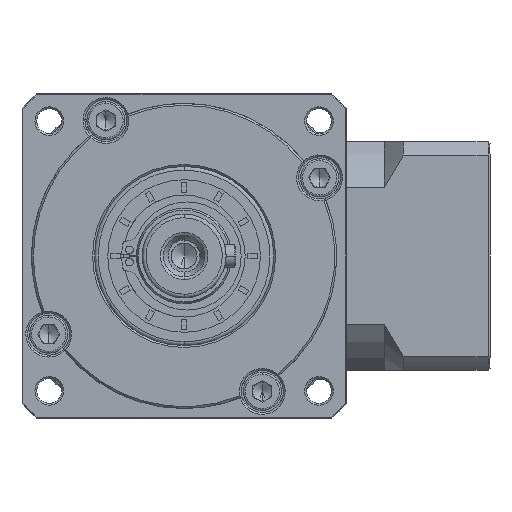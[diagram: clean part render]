
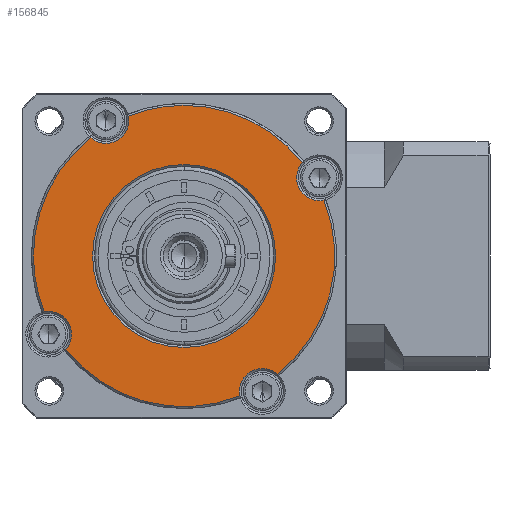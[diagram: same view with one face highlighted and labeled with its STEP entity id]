
A CAD part, left-side view. The second image highlights one B-rep face of the part: STEP entity #156845.
In plain terms, the highlighted planar face has unit normal (-1, 0, 0).
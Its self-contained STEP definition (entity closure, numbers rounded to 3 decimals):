
#1770 = DIRECTION ( 'NONE',  ( 0., 1., 0. ) ) ;
#2203 = DIRECTION ( 'NONE',  ( 0., 0., -1. ) ) ;
#3359 = DIRECTION ( 'NONE',  ( 0., 0., -1. ) ) ;
#4302 = AXIS2_PLACEMENT_3D ( 'NONE', #141970, #50940, #157286 ) ;
#6285 = FACE_OUTER_BOUND ( 'NONE', #175427, .T. ) ;
#7873 = CARTESIAN_POINT ( 'NONE',  ( -231.196, 49.8, 7.865 ) ) ;
#9203 = DIRECTION ( 'NONE',  ( 0., 0., -1. ) ) ;
#11209 = DIRECTION ( 'NONE',  ( 1., 0., 0. ) ) ;
#11604 = CIRCLE ( 'NONE', #28624, 6. ) ;
#15313 = CARTESIAN_POINT ( 'NONE',  ( -231.196, 49.8, 7.865 ) ) ;
#17304 = EDGE_LOOP ( 'NONE', ( #164622, #26739 ) ) ;
#18816 = EDGE_CURVE ( 'NONE', #183508, #106160, #159239, .T. ) ;
#19229 = EDGE_CURVE ( 'NONE', #72740, #43373, #11604, .T. ) ;
#20675 = AXIS2_PLACEMENT_3D ( 'NONE', #147501, #56461, #162882 ) ;
#21639 = DIRECTION ( 'NONE',  ( 1., 0., 0. ) ) ;
#22546 = PLANE ( 'NONE',  #66444 ) ;
#22672 = ORIENTED_EDGE ( 'NONE', *, *, #19229, .T. ) ;
#22696 = CARTESIAN_POINT ( 'NONE',  ( -231.196, 64.419, 44.56 ) ) ;
#23205 = DIRECTION ( 'NONE',  ( 0., 0., -1. ) ) ;
#23673 = EDGE_CURVE ( 'NONE', #67096, #53448, #136253, .T. ) ;
#24796 = EDGE_CURVE ( 'NONE', #58851, #45142, #90422, .T. ) ;
#26739 = ORIENTED_EDGE ( 'NONE', *, *, #24796, .T. ) ;
#28624 = AXIS2_PLACEMENT_3D ( 'NONE', #64343, #170710, #79622 ) ;
#29172 = CARTESIAN_POINT ( 'NONE',  ( -231.196, 80.808, -16.605 ) ) ;
#30594 = DIRECTION ( 'NONE',  ( 0., 0., 1. ) ) ;
#38951 = ORIENTED_EDGE ( 'NONE', *, *, #23673, .T. ) ;
#40072 = AXIS2_PLACEMENT_3D ( 'NONE', #47135, #153450, #62425 ) ;
#41842 = ORIENTED_EDGE ( 'NONE', *, *, #65955, .F. ) ;
#42397 = AXIS2_PLACEMENT_3D ( 'NONE', #184612, #93450, #2203 ) ;
#43373 = VERTEX_POINT ( 'NONE', #46114 ) ;
#43916 = CARTESIAN_POINT ( 'NONE',  ( -231.196, 49.8, 7.865 ) ) ;
#44038 = AXIS2_PLACEMENT_3D ( 'NONE', #112782, #21639, #128060 ) ;
#45142 = VERTEX_POINT ( 'NONE', #53636 ) ;
#46114 = CARTESIAN_POINT ( 'NONE',  ( -231.196, 14.293, 22.365 ) ) ;
#47135 = CARTESIAN_POINT ( 'NONE',  ( -231.196, 49.8, 7.865 ) ) ;
#48988 = CARTESIAN_POINT ( 'NONE',  ( -231.196, 13.105, 22.484 ) ) ;
#50940 = DIRECTION ( 'NONE',  ( 1., 0., 0. ) ) ;
#51746 = AXIS2_PLACEMENT_3D ( 'NONE', #78519, #184909, #93771 ) ;
#53176 = AXIS2_PLACEMENT_3D ( 'NONE', #102436, #11209, #117660 ) ;
#53448 = VERTEX_POINT ( 'NONE', #123670 ) ;
#53636 = CARTESIAN_POINT ( 'NONE',  ( -231.196, 25.8, 7.865 ) ) ;
#54966 = AXIS2_PLACEMENT_3D ( 'NONE', #184173, #93027, #1770 ) ;
#56461 = DIRECTION ( 'NONE',  ( 1., 0., 0. ) ) ;
#58851 = VERTEX_POINT ( 'NONE', #166710 ) ;
#59196 = DIRECTION ( 'NONE',  ( 0., -1., 0. ) ) ;
#60525 = CIRCLE ( 'NONE', #44038, 39.5 ) ;
#60885 = CARTESIAN_POINT ( 'NONE',  ( -231.196, 49.8, 47.365 ) ) ;
#61139 = ORIENTED_EDGE ( 'NONE', *, *, #101550, .F. ) ;
#62425 = DIRECTION ( 'NONE',  ( 0., -1., 0. ) ) ;
#63969 = VERTEX_POINT ( 'NONE', #60885 ) ;
#64343 = CARTESIAN_POINT ( 'NONE',  ( -231.196, 14.293, 28.365 ) ) ;
#65955 = EDGE_CURVE ( 'NONE', #172747, #106160, #192924, .T. ) ;
#66444 = AXIS2_PLACEMENT_3D ( 'NONE', #7873, #114304, #23205 ) ;
#67096 = VERTEX_POINT ( 'NONE', #178022 ) ;
#70078 = EDGE_CURVE ( 'NONE', #126901, #63969, #116175, .T. ) ;
#72740 = VERTEX_POINT ( 'NONE', #48988 ) ;
#76456 = EDGE_CURVE ( 'NONE', #43373, #135970, #109061, .T. ) ;
#76911 = CARTESIAN_POINT ( 'NONE',  ( -231.196, 18.792, 32.334 ) ) ;
#78379 = DIRECTION ( 'NONE',  ( 1., 0., 0. ) ) ;
#78519 = CARTESIAN_POINT ( 'NONE',  ( -231.196, 49.8, 7.865 ) ) ;
#79622 = DIRECTION ( 'NONE',  ( 0., 0., -1. ) ) ;
#82573 = FACE_BOUND ( 'NONE', #17304, .T. ) ;
#86237 = VERTEX_POINT ( 'NONE', #29172 ) ;
#86319 = ORIENTED_EDGE ( 'NONE', *, *, #140437, .F. ) ;
#87296 = AXIS2_PLACEMENT_3D ( 'NONE', #191405, #100402, #9203 ) ;
#89117 = CIRCLE ( 'NONE', #96441, 24. ) ;
#89378 = CARTESIAN_POINT ( 'NONE',  ( -231.196, 70.3, 37.372 ) ) ;
#90422 = CIRCLE ( 'NONE', #40072, 24. ) ;
#93027 = DIRECTION ( 'NONE',  ( 1., 0., 0. ) ) ;
#93450 = DIRECTION ( 'NONE',  ( 1., 0., 0. ) ) ;
#93771 = DIRECTION ( 'NONE',  ( 0., 0., 1. ) ) ;
#94624 = DIRECTION ( 'NONE',  ( 1., 0., 0. ) ) ;
#96441 = AXIS2_PLACEMENT_3D ( 'NONE', #43916, #150275, #59196 ) ;
#96714 = ORIENTED_EDGE ( 'NONE', *, *, #97427, .F. ) ;
#97427 = EDGE_CURVE ( 'NONE', #67096, #86237, #123752, .T. ) ;
#99400 = ORIENTED_EDGE ( 'NONE', *, *, #76456, .T. ) ;
#100402 = DIRECTION ( 'NONE',  ( 1., 0., 0. ) ) ;
#100685 = EDGE_CURVE ( 'NONE', #178632, #86237, #153961, .T. ) ;
#101222 = ORIENTED_EDGE ( 'NONE', *, *, #113759, .F. ) ;
#101550 = EDGE_CURVE ( 'NONE', #72740, #53448, #60525, .T. ) ;
#102436 = CARTESIAN_POINT ( 'NONE',  ( -231.196, 49.8, 7.865 ) ) ;
#106160 = VERTEX_POINT ( 'NONE', #168564 ) ;
#107692 = ORIENTED_EDGE ( 'NONE', *, *, #70078, .F. ) ;
#109061 = CIRCLE ( 'NONE', #4302, 6. ) ;
#109083 = EDGE_CURVE ( 'NONE', #126901, #183508, #180133, .T. ) ;
#112782 = CARTESIAN_POINT ( 'NONE',  ( -231.196, 49.8, 7.865 ) ) ;
#113759 = EDGE_CURVE ( 'NONE', #178632, #172747, #192979, .T. ) ;
#114304 = DIRECTION ( 'NONE',  ( -1., 0., 0. ) ) ;
#116175 = CIRCLE ( 'NONE', #53176, 39.5 ) ;
#117660 = DIRECTION ( 'NONE',  ( 0., 0., 1. ) ) ;
#121754 = DIRECTION ( 'NONE',  ( 1., 0., 0. ) ) ;
#123648 = EDGE_CURVE ( 'NONE', #45142, #58851, #89117, .T. ) ;
#123670 = CARTESIAN_POINT ( 'NONE',  ( -231.196, 25.33, -23.143 ) ) ;
#123752 = CIRCLE ( 'NONE', #192255, 39.5 ) ;
#124181 = CARTESIAN_POINT ( 'NONE',  ( -231.196, 89.3, 7.865 ) ) ;
#126901 = VERTEX_POINT ( 'NONE', #22696 ) ;
#128060 = DIRECTION ( 'NONE',  ( 0., 0., 1. ) ) ;
#135970 = VERTEX_POINT ( 'NONE', #76911 ) ;
#136253 = CIRCLE ( 'NONE', #42397, 6. ) ;
#136260 = ORIENTED_EDGE ( 'NONE', *, *, #18816, .T. ) ;
#140437 = EDGE_CURVE ( 'NONE', #63969, #135970, #179207, .T. ) ;
#141970 = CARTESIAN_POINT ( 'NONE',  ( -231.196, 14.293, 28.365 ) ) ;
#147501 = CARTESIAN_POINT ( 'NONE',  ( -231.196, 49.8, 7.865 ) ) ;
#148284 = AXIS2_PLACEMENT_3D ( 'NONE', #185741, #94624, #3359 ) ;
#150275 = DIRECTION ( 'NONE',  ( 1., 0., 0. ) ) ;
#152972 = ORIENTED_EDGE ( 'NONE', *, *, #100685, .T. ) ;
#153450 = DIRECTION ( 'NONE',  ( 1., 0., 0. ) ) ;
#153961 = CIRCLE ( 'NONE', #148284, 6. ) ;
#156845 = ADVANCED_FACE ( 'NONE', ( #6285, #82573 ), #22546, .T. ) ;
#157269 = CARTESIAN_POINT ( 'NONE',  ( -231.196, 86.495, -6.754 ) ) ;
#157286 = DIRECTION ( 'NONE',  ( 0., 0., -1. ) ) ;
#159239 = CIRCLE ( 'NONE', #87296, 6. ) ;
#162677 = AXIS2_PLACEMENT_3D ( 'NONE', #169432, #78379, #184751 ) ;
#162882 = DIRECTION ( 'NONE',  ( 0., 1., 0. ) ) ;
#164622 = ORIENTED_EDGE ( 'NONE', *, *, #123648, .T. ) ;
#166710 = CARTESIAN_POINT ( 'NONE',  ( -231.196, 73.8, 7.865 ) ) ;
#168564 = CARTESIAN_POINT ( 'NONE',  ( -231.196, 74.27, 38.873 ) ) ;
#169432 = CARTESIAN_POINT ( 'NONE',  ( -231.196, 70.3, 43.372 ) ) ;
#170710 = DIRECTION ( 'NONE',  ( 1., 0., 0. ) ) ;
#172747 = VERTEX_POINT ( 'NONE', #124181 ) ;
#175427 = EDGE_LOOP ( 'NONE', ( #107692, #185658, #136260, #41842, #101222, #152972, #96714, #38951, #61139, #22672, #99400, #86319 ) ) ;
#178022 = CARTESIAN_POINT ( 'NONE',  ( -231.196, 35.181, -28.83 ) ) ;
#178632 = VERTEX_POINT ( 'NONE', #157269 ) ;
#179207 = CIRCLE ( 'NONE', #51746, 39.5 ) ;
#180133 = CIRCLE ( 'NONE', #162677, 6. ) ;
#183508 = VERTEX_POINT ( 'NONE', #89378 ) ;
#184173 = CARTESIAN_POINT ( 'NONE',  ( -231.196, 49.8, 7.865 ) ) ;
#184612 = CARTESIAN_POINT ( 'NONE',  ( -231.196, 29.3, -27.642 ) ) ;
#184751 = DIRECTION ( 'NONE',  ( 0., 0., -1. ) ) ;
#184909 = DIRECTION ( 'NONE',  ( 1., 0., 0. ) ) ;
#185658 = ORIENTED_EDGE ( 'NONE', *, *, #109083, .T. ) ;
#185741 = CARTESIAN_POINT ( 'NONE',  ( -231.196, 85.307, -12.635 ) ) ;
#191405 = CARTESIAN_POINT ( 'NONE',  ( -231.196, 70.3, 43.372 ) ) ;
#192255 = AXIS2_PLACEMENT_3D ( 'NONE', #15313, #121754, #30594 ) ;
#192924 = CIRCLE ( 'NONE', #54966, 39.5 ) ;
#192979 = CIRCLE ( 'NONE', #20675, 39.5 ) ;
